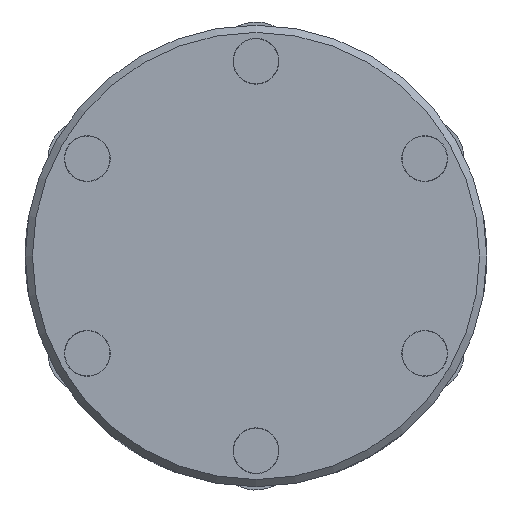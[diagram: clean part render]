
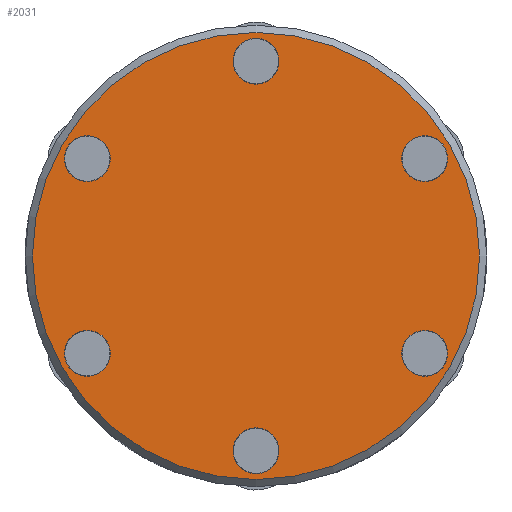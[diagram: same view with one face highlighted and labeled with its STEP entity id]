
A CAD part, front view. The second image highlights one B-rep face of the part: STEP entity #2031.
In plain terms, the highlighted planar face has unit normal (0, -1, 0) as drawn and (0, 0, 1) by its records, which use the part's own axes.
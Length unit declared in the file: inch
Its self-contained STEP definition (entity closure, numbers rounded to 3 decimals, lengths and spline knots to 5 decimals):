
#378=PLANE('',#2200);
#462=FACE_BOUND('',#721,.T.);
#463=FACE_BOUND('',#722,.T.);
#464=FACE_BOUND('',#723,.T.);
#465=FACE_BOUND('',#724,.T.);
#466=FACE_BOUND('',#725,.T.);
#467=FACE_BOUND('',#726,.T.);
#564=FACE_OUTER_BOUND('',#720,.T.);
#720=EDGE_LOOP('',(#1540));
#721=EDGE_LOOP('',(#1541));
#722=EDGE_LOOP('',(#1542));
#723=EDGE_LOOP('',(#1543));
#724=EDGE_LOOP('',(#1544));
#725=EDGE_LOOP('',(#1545));
#726=EDGE_LOOP('',(#1546));
#906=CIRCLE('',#2146,0.1915);
#908=CIRCLE('',#2149,0.1915);
#910=CIRCLE('',#2152,0.1915);
#912=CIRCLE('',#2155,0.1915);
#914=CIRCLE('',#2158,0.1915);
#916=CIRCLE('',#2161,0.1915);
#929=CIRCLE('',#2196,1.865);
#1026=VERTEX_POINT('',#3063);
#1028=VERTEX_POINT('',#3068);
#1030=VERTEX_POINT('',#3073);
#1032=VERTEX_POINT('',#3078);
#1034=VERTEX_POINT('',#3083);
#1036=VERTEX_POINT('',#3088);
#1059=VERTEX_POINT('',#3236);
#1220=EDGE_CURVE('',#1026,#1026,#906,.T.);
#1222=EDGE_CURVE('',#1028,#1028,#908,.T.);
#1224=EDGE_CURVE('',#1030,#1030,#910,.T.);
#1226=EDGE_CURVE('',#1032,#1032,#912,.T.);
#1228=EDGE_CURVE('',#1034,#1034,#914,.T.);
#1230=EDGE_CURVE('',#1036,#1036,#916,.T.);
#1258=EDGE_CURVE('',#1059,#1059,#929,.T.);
#1540=ORIENTED_EDGE('',*,*,#1258,.F.);
#1541=ORIENTED_EDGE('',*,*,#1220,.T.);
#1542=ORIENTED_EDGE('',*,*,#1222,.T.);
#1543=ORIENTED_EDGE('',*,*,#1224,.T.);
#1544=ORIENTED_EDGE('',*,*,#1226,.T.);
#1545=ORIENTED_EDGE('',*,*,#1228,.T.);
#1546=ORIENTED_EDGE('',*,*,#1230,.T.);
#2031=ADVANCED_FACE('',(#564,#462,#463,#464,#465,#466,#467),#378,.F.);
#2146=AXIS2_PLACEMENT_3D('',#3064,#2424,#2425);
#2149=AXIS2_PLACEMENT_3D('',#3069,#2430,#2431);
#2152=AXIS2_PLACEMENT_3D('',#3074,#2436,#2437);
#2155=AXIS2_PLACEMENT_3D('',#3079,#2442,#2443);
#2158=AXIS2_PLACEMENT_3D('',#3084,#2448,#2449);
#2161=AXIS2_PLACEMENT_3D('',#3089,#2454,#2455);
#2196=AXIS2_PLACEMENT_3D('',#3237,#2524,#2525);
#2200=AXIS2_PLACEMENT_3D('',#3321,#2532,#2533);
#2424=DIRECTION('center_axis',(0.,0.,-1.));
#2425=DIRECTION('ref_axis',(-1.,0.,0.));
#2430=DIRECTION('center_axis',(0.,0.,-1.));
#2431=DIRECTION('ref_axis',(-1.,0.,0.));
#2436=DIRECTION('center_axis',(0.,0.,-1.));
#2437=DIRECTION('ref_axis',(-1.,0.,0.));
#2442=DIRECTION('center_axis',(0.,0.,-1.));
#2443=DIRECTION('ref_axis',(-1.,0.,0.));
#2448=DIRECTION('center_axis',(0.,0.,-1.));
#2449=DIRECTION('ref_axis',(-1.,0.,0.));
#2454=DIRECTION('center_axis',(0.,0.,-1.));
#2455=DIRECTION('ref_axis',(-1.,0.,0.));
#2524=DIRECTION('center_axis',(0.,0.,-1.));
#2525=DIRECTION('ref_axis',(-1.,0.,0.));
#2532=DIRECTION('center_axis',(0.,0.,-1.));
#2533=DIRECTION('ref_axis',(-1.,0.,0.));
#3063=CARTESIAN_POINT('',(-1.21579,0.8125,0.55));
#3064=CARTESIAN_POINT('Origin',(-1.40729,0.8125,0.55));
#3068=CARTESIAN_POINT('',(0.1915,1.625,0.55));
#3069=CARTESIAN_POINT('Origin',(0.,1.625,0.55));
#3073=CARTESIAN_POINT('',(1.59879,0.8125,0.55));
#3074=CARTESIAN_POINT('Origin',(1.40729,0.8125,0.55));
#3078=CARTESIAN_POINT('',(1.59879,-0.8125,0.55));
#3079=CARTESIAN_POINT('Origin',(1.40729,-0.8125,0.55));
#3083=CARTESIAN_POINT('',(0.1915,-1.625,0.55));
#3084=CARTESIAN_POINT('Origin',(0.,-1.625,0.55));
#3088=CARTESIAN_POINT('',(-1.21579,-0.8125,0.55));
#3089=CARTESIAN_POINT('Origin',(-1.40729,-0.8125,0.55));
#3236=CARTESIAN_POINT('',(1.865,0.,0.55));
#3237=CARTESIAN_POINT('Origin',(0.,0.,0.55));
#3321=CARTESIAN_POINT('Origin',(0.,0.,0.55));
